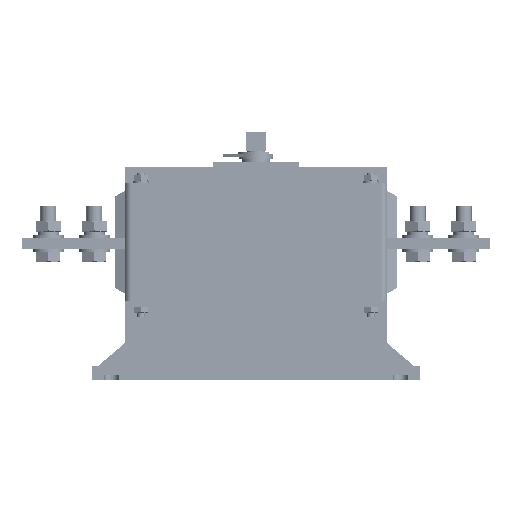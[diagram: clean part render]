
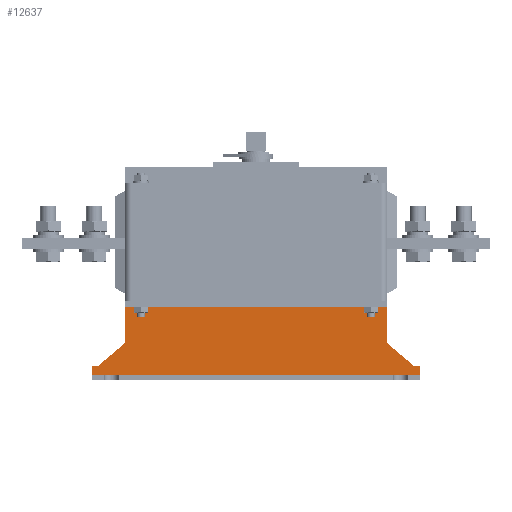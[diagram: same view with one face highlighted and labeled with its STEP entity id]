
A CAD part, left-side view. The second image highlights one B-rep face of the part: STEP entity #12637.
In plain terms, the highlighted planar face has unit normal (-1, 0, 0) as drawn and (0, 0, 1) by its records, which use the part's own axes.
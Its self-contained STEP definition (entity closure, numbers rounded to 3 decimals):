
#12120=DIRECTION('',(0.,-1.,0.));
#12121=VECTOR('',#12120,7.);
#12122=CARTESIAN_POINT('',(-125.,11.,-11.));
#12123=LINE('',#12122,#12121);
#12128=DIRECTION('',(-1.,0.,0.));
#12129=VECTOR('',#12128,5.);
#12130=CARTESIAN_POINT('',(-120.,11.,-11.));
#12131=LINE('',#12130,#12129);
#12136=DIRECTION('',(1.,0.,0.));
#12137=VECTOR('',#12136,200.);
#12138=CARTESIAN_POINT('',(-100.,56.,-11.));
#12139=LINE('',#12138,#12137);
#12153=DIRECTION('',(0.,-1.,0.));
#12154=VECTOR('',#12153,7.);
#12155=CARTESIAN_POINT('',(125.,11.,-11.));
#12156=LINE('',#12155,#12154);
#12284=DIRECTION('',(0.,1.,0.));
#12285=VECTOR('',#12284,28.);
#12286=CARTESIAN_POINT('',(100.,28.,-11.));
#12287=LINE('',#12286,#12285);
#12349=DIRECTION('',(0.,1.,0.));
#12350=VECTOR('',#12349,28.);
#12351=CARTESIAN_POINT('',(-100.,28.,-11.));
#12352=LINE('',#12351,#12350);
#12353=DIRECTION('',(-0.762,-0.648,0.));
#12354=VECTOR('',#12353,26.249);
#12355=CARTESIAN_POINT('',(-100.,28.,-11.));
#12356=LINE('',#12355,#12354);
#12361=DIRECTION('',(-0.762,0.648,0.));
#12362=VECTOR('',#12361,26.249);
#12363=CARTESIAN_POINT('',(120.,11.,-11.));
#12364=LINE('',#12363,#12362);
#12369=DIRECTION('',(-1.,0.,0.));
#12370=VECTOR('',#12369,5.);
#12371=CARTESIAN_POINT('',(125.,11.,-11.));
#12372=LINE('',#12371,#12370);
#12403=DIRECTION('',(1.,0.,0.));
#12404=VECTOR('',#12403,250.);
#12405=CARTESIAN_POINT('',(-125.,4.,-11.));
#12406=LINE('',#12405,#12404);
#12444=CARTESIAN_POINT('',(125.,4.,-11.));
#12446=VERTEX_POINT('',#12444);
#12447=CARTESIAN_POINT('',(125.,11.,-11.));
#12448=VERTEX_POINT('',#12447);
#12449=CARTESIAN_POINT('',(120.,11.,-11.));
#12450=VERTEX_POINT('',#12449);
#12451=CARTESIAN_POINT('',(100.,28.,-11.));
#12452=VERTEX_POINT('',#12451);
#12453=CARTESIAN_POINT('',(100.,56.,-11.));
#12454=VERTEX_POINT('',#12453);
#12455=CARTESIAN_POINT('',(-100.,56.,-11.));
#12456=VERTEX_POINT('',#12455);
#12457=CARTESIAN_POINT('',(-100.,28.,-11.));
#12458=VERTEX_POINT('',#12457);
#12459=CARTESIAN_POINT('',(-120.,11.,-11.));
#12460=VERTEX_POINT('',#12459);
#12461=CARTESIAN_POINT('',(-125.,11.,-11.));
#12462=VERTEX_POINT('',#12461);
#12464=CARTESIAN_POINT('',(-125.,4.,-11.));
#12466=VERTEX_POINT('',#12464);
#12612=CARTESIAN_POINT('',(-125.,56.,-11.));
#12613=DIRECTION('',(0.,0.,-1.));
#12614=DIRECTION('',(0.,-1.,0.));
#12615=AXIS2_PLACEMENT_3D('',#12612,#12613,#12614);
#12616=PLANE('',#12615);
#12618=ORIENTED_EDGE('',*,*,#12617,.T.);
#12620=ORIENTED_EDGE('',*,*,#12619,.F.);
#12621=ORIENTED_EDGE('',*,*,#12587,.F.);
#12622=ORIENTED_EDGE('',*,*,#12603,.F.);
#12624=ORIENTED_EDGE('',*,*,#12623,.F.);
#12626=ORIENTED_EDGE('',*,*,#12625,.T.);
#12628=ORIENTED_EDGE('',*,*,#12627,.T.);
#12630=ORIENTED_EDGE('',*,*,#12629,.F.);
#12632=ORIENTED_EDGE('',*,*,#12631,.F.);
#12634=ORIENTED_EDGE('',*,*,#12633,.F.);
#12635=EDGE_LOOP('',(#12618,#12620,#12621,#12622,#12624,#12626,#12628,#12630,
#12632,#12634));
#12636=FACE_OUTER_BOUND('',#12635,.F.);
#12637=ADVANCED_FACE('',(#12636),#12616,.F.);
#12587=EDGE_CURVE('',#12462,#12466,#12123,.T.);
#12603=EDGE_CURVE('',#12460,#12462,#12131,.T.);
#12617=EDGE_CURVE('',#12448,#12446,#12156,.T.);
#12619=EDGE_CURVE('',#12466,#12446,#12406,.T.);
#12623=EDGE_CURVE('',#12458,#12460,#12356,.T.);
#12625=EDGE_CURVE('',#12458,#12456,#12352,.T.);
#12627=EDGE_CURVE('',#12456,#12454,#12139,.T.);
#12629=EDGE_CURVE('',#12452,#12454,#12287,.T.);
#12631=EDGE_CURVE('',#12450,#12452,#12364,.T.);
#12633=EDGE_CURVE('',#12448,#12450,#12372,.T.);
